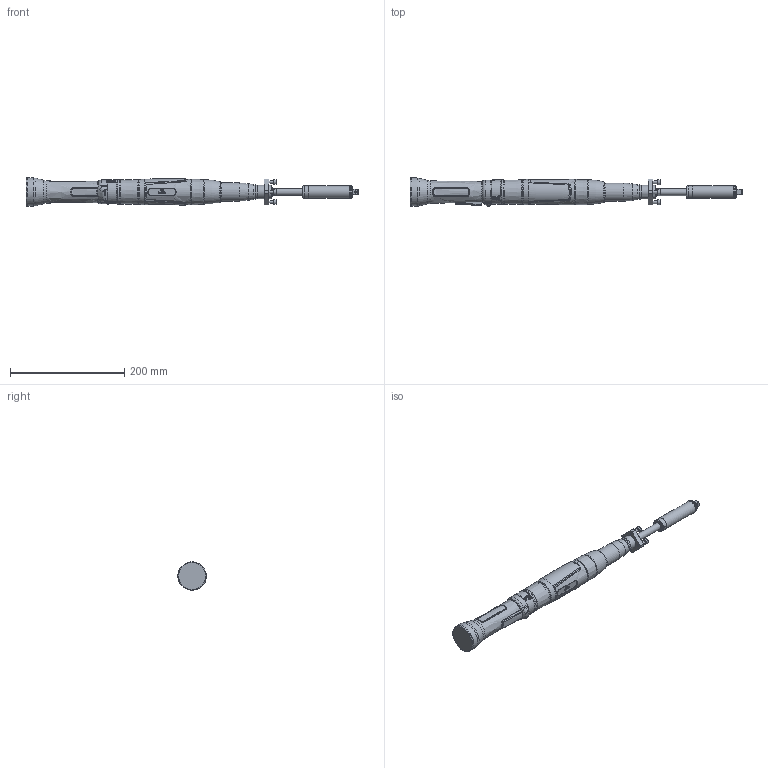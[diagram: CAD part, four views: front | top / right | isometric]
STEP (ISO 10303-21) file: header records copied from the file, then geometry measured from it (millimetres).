
FILE_DESCRIPTION (( 'STEP AP214' ), '1' );
FILE_NAME ('70058353.STEP', '2016-11-11T09:55:00', ( 'admin' ), ( '' ), 'SwSTEP 2.0', 'SolidWorks 2014', '' );
FILE_SCHEMA (( 'AUTOMOTIVE_DESIGN' ));
Length unit declared in the file: millimetre
Products named in the file (1): 70058353
Bounding box: 580.9 x 50.42 x 49.5 mm (x, y, z)
Volume: 521120.2 mm3; surface area: 97524.3 mm2
Topology: 9 solids, 9 shells, 1342 faces, 3378 edges, 2071 vertices
Faces by surface type: bspline 426, plane 345, cylinder 344, torus 145, cone 54, sphere 28
Full cylindrical faces by diameter (mm): 1.7 x2, 2 x1, 3.5 x1, 4 x1, 5 x4, 6 x1, 8.5 x4, 12.1 x1, 14 x1, 16 x1, 18 x1, 20.2 x1, 21 x1, 22 x3, 24 x2, 31.7 x1, 38 x1, 39 x1, 39.5 x1, 40.5 x1, 42 x2, 43.3 x1, 43.5 x1, 49.5 x1
Entity records: 70360 total; most frequent: CARTESIAN_POINT 27425, ORIENTED_EDGE 6408, DIRECTION 4892, EDGE_CURVE 3204, VERTEX_POINT 2026, AXIS2_PLACEMENT_3D 1938, EDGE_LOOP 1510, FACE_OUTER_BOUND 1416
